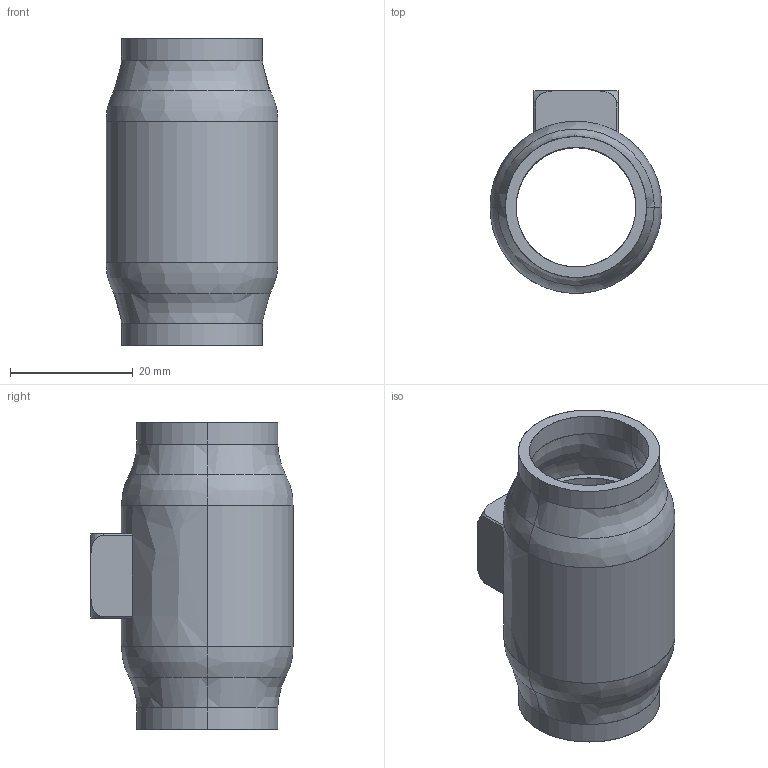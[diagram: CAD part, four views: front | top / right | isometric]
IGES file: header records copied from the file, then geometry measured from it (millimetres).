
Start section: SolidWorks IGES file using analytic representation for surfaces
Global section: file name: C:\HEMSIDA\cad\SLDPRT_2010\wn600\\wn600-19.igs; native system: SolidWorks 2010; preprocessor: SolidWorks 2010; author: Administrator; date: 101214.114932; units: millimetre
Bounding box: 28 x 33 x 50 mm (x, y, z)
Surface area: 11890.6 mm2 (no closed solid volume)
Topology: 0 solids, 0 shells, 56 faces, 828 edges, 828 vertices
Faces by surface type: bspline 29, revolution 27
